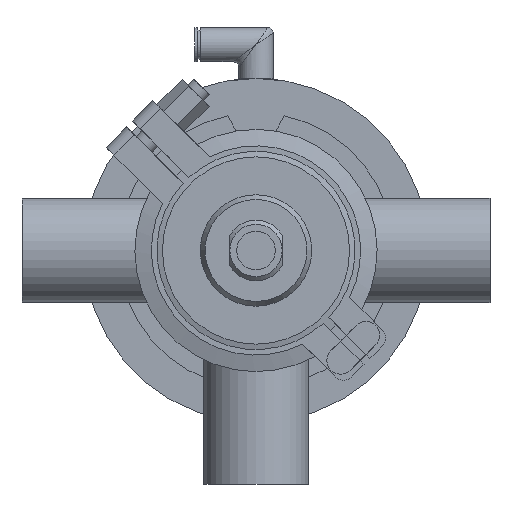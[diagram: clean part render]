
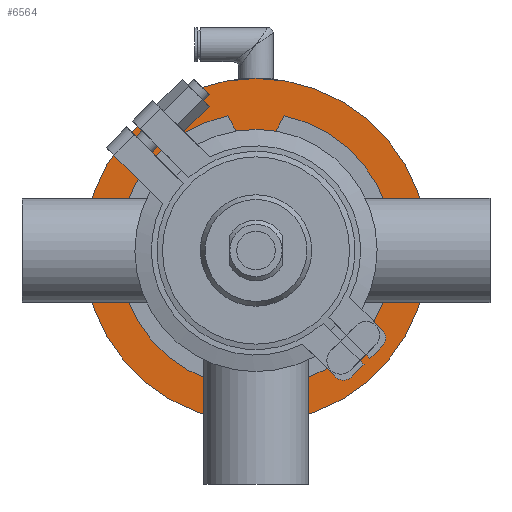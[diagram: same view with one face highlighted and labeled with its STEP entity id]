
A CAD part, front view. The second image highlights one B-rep face of the part: STEP entity #6564.
In plain terms, the highlighted planar face has unit normal (0, -1, 0).
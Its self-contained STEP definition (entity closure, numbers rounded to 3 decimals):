
#1187 = FACE_OUTER_BOUND ( 'NONE', #17850, .T. ) ;
#3199 = CARTESIAN_POINT ( 'NONE',  ( 0., 0., 0. ) ) ;
#6564 = ADVANCED_FACE ( 'NONE', ( #1187 ), #8417, .F. ) ;
#6841 = CIRCLE ( 'NONE', #11788, 62.5 ) ;
#8417 = PLANE ( 'NONE',  #13362 ) ;
#8576 = DIRECTION ( 'NONE',  ( 0., -1., 0. ) ) ;
#9373 = EDGE_CURVE ( 'NONE', #18224, #18224, #6841, .T. ) ;
#10130 = CARTESIAN_POINT ( 'NONE',  ( 0., 0., 0. ) ) ;
#11788 = AXIS2_PLACEMENT_3D ( 'NONE', #10130, #8576, #18774 ) ;
#12027 = ORIENTED_EDGE ( 'NONE', *, *, #9373, .T. ) ;
#13362 = AXIS2_PLACEMENT_3D ( 'NONE', #3199, #18279, #21853 ) ;
#17850 = EDGE_LOOP ( 'NONE', ( #12027 ) ) ;
#18117 = CARTESIAN_POINT ( 'NONE',  ( 0., 0., -62.5 ) ) ;
#18224 = VERTEX_POINT ( 'NONE', #18117 ) ;
#18279 = DIRECTION ( 'NONE',  ( 0., 1., 0. ) ) ;
#18774 = DIRECTION ( 'NONE',  ( 0., 0., -1. ) ) ;
#21853 = DIRECTION ( 'NONE',  ( 0., 0., 1. ) ) ;
